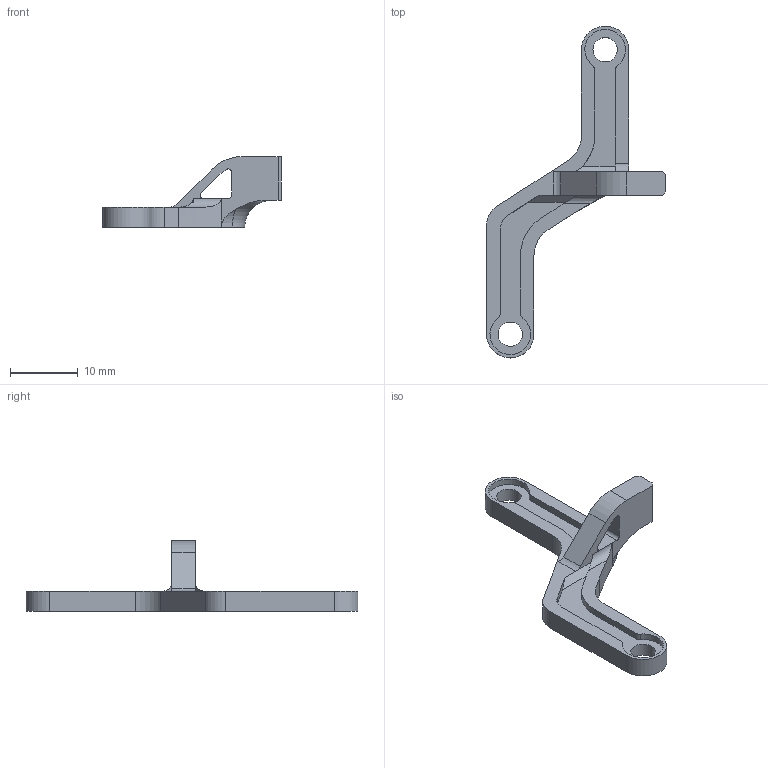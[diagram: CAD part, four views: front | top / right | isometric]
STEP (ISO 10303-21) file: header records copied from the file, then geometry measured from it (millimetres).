
FILE_DESCRIPTION(/* description */ (''),/* implementation_level */ '2;1');
FILE_NAME(/* name */ 'C:/Users/fbroise/Downloads/ENDPIN.step',/* time_stamp */ '2022-09-12T15:17:21+02:00',/* author */ (''),/* organization */ (''),/* preprocessor_version */ 'ST-DEVELOPER v19',/* originating_system */ 'Autodesk Translation Framework v11.7.0.108',/* authorisation */ '');
FILE_SCHEMA (('AUTOMOTIVE_DESIGN { 1 0 10303 214 3 1 1 }'));
Length unit declared in the file: millimetre
Products named in the file (1): FusionComponent
Bounding box: 26.4 x 49 x 10.46 mm (x, y, z)
Volume: 1218.6 mm3; surface area: 1521 mm2
Topology: 1 solids, 1 shells, 58 faces, 167 edges, 111 vertices
Faces by surface type: plane 29, cylinder 27, torus 2
Full cylindrical faces by diameter (mm): 3.599 x1, 3.6 x1
Entity records: 2021 total; most frequent: CARTESIAN_POINT 397, DIRECTION 337, ORIENTED_EDGE 334, EDGE_CURVE 167, AXIS2_PLACEMENT_3D 117, VERTEX_POINT 111, LINE 103, VECTOR 103
